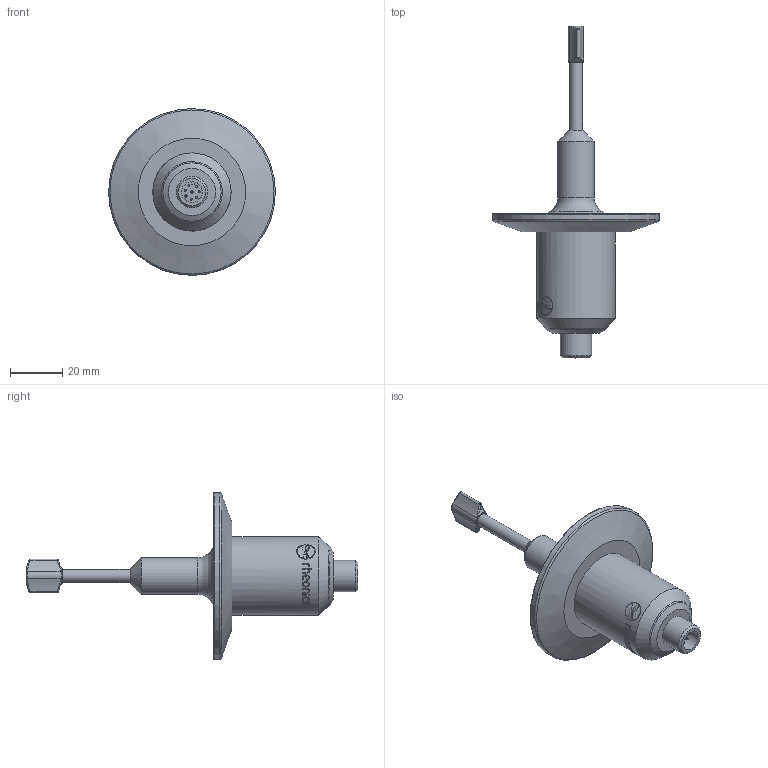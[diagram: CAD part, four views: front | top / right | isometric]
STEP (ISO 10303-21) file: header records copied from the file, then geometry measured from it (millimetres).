
FILE_DESCRIPTION(/* description */ ('Unknown'),/* implementation_level */ '2;1');
FILE_NAME(/* name */ 'SRD-HS-X3-20T',/* time_stamp */ '2024-01-15T15:48:18-05:00',/* author */ ('Unknown'),/* organization */ ('Unknown'),/* preprocessor_version */ 'ST-DEVELOPER v16.7',/* originating_system */ 'Solid Edge',/* authorisation */ 'Unknown');
FILE_SCHEMA (('CONFIG_CONTROL_DESIGN'));
Length unit declared in the file: millimetre
Products named in the file (1): SRD-HS-X3-20T
Bounding box: 64 x 127.35 x 64 mm (x, y, z)
Volume: 50645.2 mm3; surface area: 13423 mm2
Topology: 1 solids, 1 shells, 206 faces, 516 edges, 325 vertices
Faces by surface type: bspline 93, cylinder 43, plane 36, cone 14, torus 12, sphere 8
Full cylindrical faces by diameter (mm): 0.8 x8, 5.019 x1, 8 x1, 12 x1, 13.9 x1, 30 x1, 64 x1
Entity records: 10766 total; most frequent: CARTESIAN_POINT 5327, ORIENTED_EDGE 902, DIRECTION 571, EDGE_CURVE 451, VERTEX_POINT 308, EDGE_LOOP 267, FACE_BOUND 267, AXIS2_PLACEMENT_3D 218
